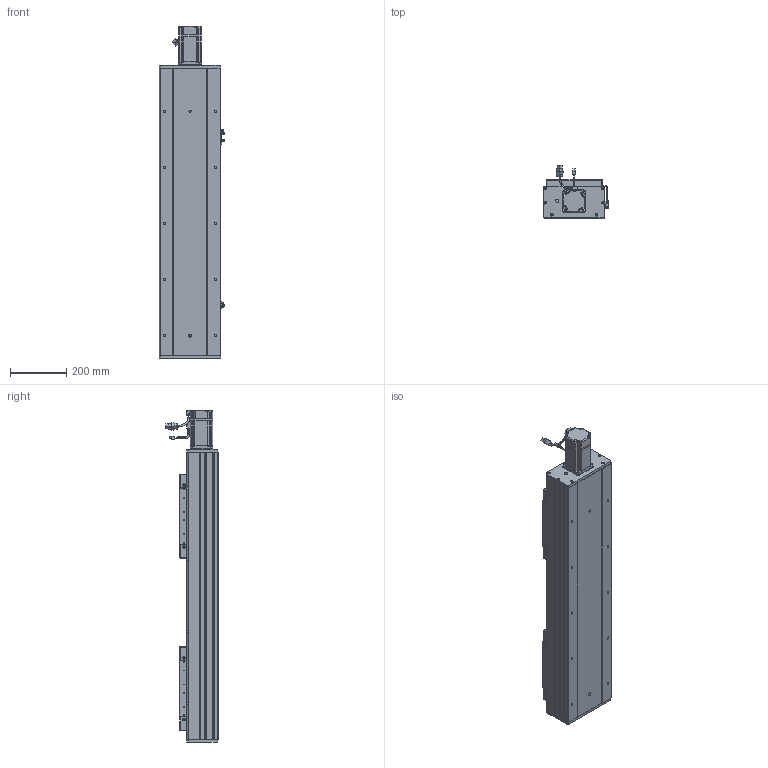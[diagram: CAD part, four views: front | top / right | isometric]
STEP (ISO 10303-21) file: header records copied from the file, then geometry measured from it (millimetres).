
FILE_DESCRIPTION (( 'STEP AP203' ), '1' );
FILE_NAME ('RY220F-L2525-300-MK.SLDASM_600.step', '2022-07-04T01:03:26', ( '' ), ( '' ), 'SwSTEP 2.0', 'SolidWorks 2016', '' );
FILE_SCHEMA (( 'CONFIG_CONTROL_DESIGN' ));
Length unit declared in the file: millimetre
Products named in the file (15): 滅袉蝶18-24; RY220F臏賑釱25-32佪裝; 怢湛750W_ECMA-CX0807ES; RY220F菁釱MK-300_600; RY220F-L2525-300-MK.SLDASM_600; RY220F-祥凄詩湍-MK-300_600; RY220F-詩湍揤踡輸; RY220F-672覜茼んえ; 覜茼ん672; RY220F綴裔啣; RY220F-奻裔啣-300_600; RY220F-滅鳥奻裔; RY220Fヶ裔啣; 滅袉蝶18-20; RY220电机支撑座FK20（PCD90M6）
Assembly tree (23 placements, depth 2):
  RY220F-L2525-300-MK.SLDASM_600
    RY220F菁釱MK-300_600
    RY220电机支撑座FK20（PCD90M6）
    RY220F-奻裔啣-300_600  x2
    怢湛750W_ECMA-CX0807ES
    RY220F臏賑釱25-32佪裝  x2
    RY220F-滅鳥奻裔  x2
    滅袉蝶18-20
    滅袉蝶18-24  x3
    RY220Fヶ裔啣
    RY220F綴裔啣
    RY220F-祥凄詩湍-MK-300_600
    RY220F-詩湍揤踡輸  x2
    覜茼ん672  x3
    RY220F-672覜茼んえ  x2
Bounding box: 233.7 x 187.27 x 1184.3 mm (x, y, z)
Volume: 12204657 mm3; surface area: 2947053.7 mm2
Topology: 24 solids, 24 shells, 2694 faces, 7390 edges, 4590 vertices
Faces by surface type: cylinder 1210, plane 1030, cone 391, bspline 37, sphere 16, torus 10
Entity records: 67078 total; most frequent: CARTESIAN_POINT 18178, ORIENTED_EDGE 9930, DIRECTION 9594, EDGE_CURVE 4965, AXIS2_PLACEMENT_3D 3399, VERTEX_POINT 3230, VECTOR 2796, LINE 2796
